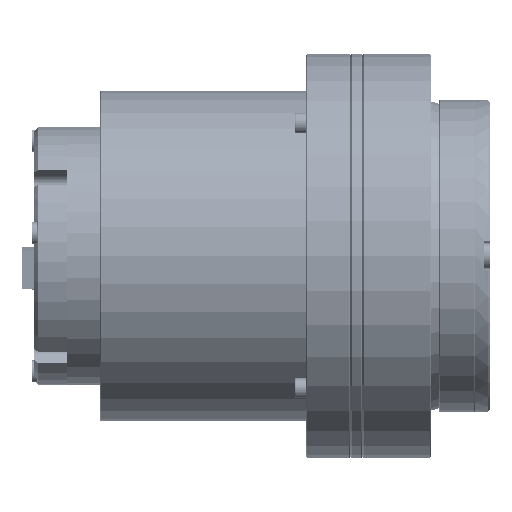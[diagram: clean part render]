
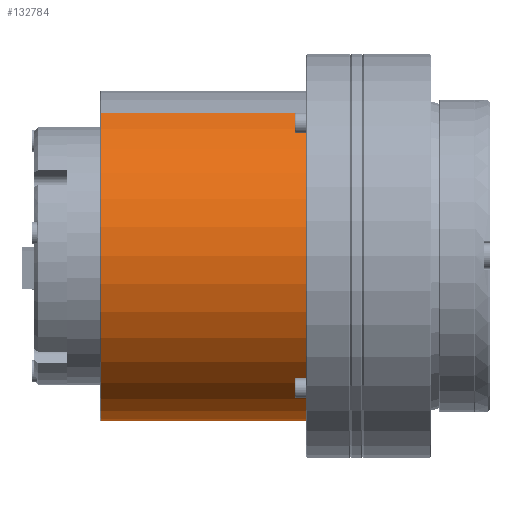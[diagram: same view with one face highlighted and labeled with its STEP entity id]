
A CAD part, top view. The second image highlights one B-rep face of the part: STEP entity #132784.
In plain terms, the highlighted cylindrical face has radius 45 mm (diameter 90 mm), a partial arc.
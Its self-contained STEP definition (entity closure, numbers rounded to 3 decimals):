
#4349 = DIRECTION ( 'NONE',  ( -1., 0., 0. ) ) ;
#7803 = DIRECTION ( 'NONE',  ( 0., 0.866, 0.5 ) ) ;
#13693 = CARTESIAN_POINT ( 'NONE',  ( -36.5, 38.971, 22.5 ) ) ;
#14534 = ORIENTED_EDGE ( 'NONE', *, *, #119442, .T. ) ;
#21049 = EDGE_LOOP ( 'NONE', ( #59569, #198346, #168672, #14534 ) ) ;
#29841 = CIRCLE ( 'NONE', #137107, 45. ) ;
#33873 = CARTESIAN_POINT ( 'NONE',  ( -50., -38.971, -22.5 ) ) ;
#35166 = CYLINDRICAL_SURFACE ( 'NONE', #51651, 45. ) ;
#42677 = VERTEX_POINT ( 'NONE', #33873 ) ;
#51651 = AXIS2_PLACEMENT_3D ( 'NONE', #153143, #4349, #7803 ) ;
#51890 = CARTESIAN_POINT ( 'NONE',  ( -50., 0., 0. ) ) ;
#53496 = VERTEX_POINT ( 'NONE', #111187 ) ;
#59569 = ORIENTED_EDGE ( 'NONE', *, *, #147045, .F. ) ;
#68206 = DIRECTION ( 'NONE',  ( 0., -0.866, -0.5 ) ) ;
#75681 = VECTOR ( 'NONE', #83550, 1000. ) ;
#78062 = AXIS2_PLACEMENT_3D ( 'NONE', #51890, #165923, #68206 ) ;
#78757 = VERTEX_POINT ( 'NONE', #131384 ) ;
#83550 = DIRECTION ( 'NONE',  ( -1., 0., 0. ) ) ;
#87959 = CARTESIAN_POINT ( 'NONE',  ( -105.7, 0., 0. ) ) ;
#88193 = VECTOR ( 'NONE', #143996, 1000. ) ;
#93861 = VERTEX_POINT ( 'NONE', #169540 ) ;
#104382 = DIRECTION ( 'NONE',  ( 0., 0.866, 0.5 ) ) ;
#111187 = CARTESIAN_POINT ( 'NONE',  ( -105.7, -38.971, -22.5 ) ) ;
#118233 = EDGE_CURVE ( 'NONE', #78757, #42677, #118247, .T. ) ;
#118247 = CIRCLE ( 'NONE', #78062, 45. ) ;
#119442 = EDGE_CURVE ( 'NONE', #93861, #53496, #29841, .T. ) ;
#131384 = CARTESIAN_POINT ( 'NONE',  ( -50., 38.971, 22.5 ) ) ;
#132784 = ADVANCED_FACE ( 'NONE', ( #180364 ), #35166, .T. ) ;
#137107 = AXIS2_PLACEMENT_3D ( 'NONE', #87959, #201921, #104382 ) ;
#143996 = DIRECTION ( 'NONE',  ( -1., 0., 0. ) ) ;
#147045 = EDGE_CURVE ( 'NONE', #42677, #53496, #162521, .T. ) ;
#153143 = CARTESIAN_POINT ( 'NONE',  ( -36.5, 0., 0. ) ) ;
#162521 = LINE ( 'NONE', #181181, #75681 ) ;
#165923 = DIRECTION ( 'NONE',  ( 1., 0., 0. ) ) ;
#168672 = ORIENTED_EDGE ( 'NONE', *, *, #200417, .T. ) ;
#169540 = CARTESIAN_POINT ( 'NONE',  ( -105.7, 38.971, 22.5 ) ) ;
#174965 = LINE ( 'NONE', #13693, #88193 ) ;
#180364 = FACE_OUTER_BOUND ( 'NONE', #21049, .T. ) ;
#181181 = CARTESIAN_POINT ( 'NONE',  ( -36.5, -38.971, -22.5 ) ) ;
#198346 = ORIENTED_EDGE ( 'NONE', *, *, #118233, .F. ) ;
#200417 = EDGE_CURVE ( 'NONE', #78757, #93861, #174965, .T. ) ;
#201921 = DIRECTION ( 'NONE',  ( 1., 0., 0. ) ) ;
